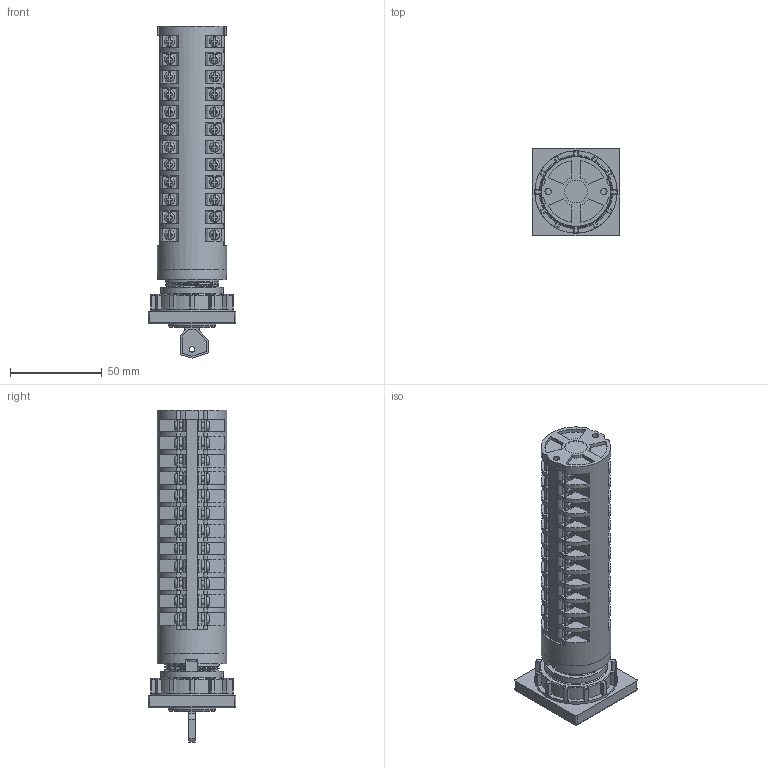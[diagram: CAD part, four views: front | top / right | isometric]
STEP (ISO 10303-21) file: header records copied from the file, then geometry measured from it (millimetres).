
FILE_DESCRIPTION(/* description */ (''),/* implementation_level */ '2;1');
FILE_NAME(/* name */ '4G10-U_wykonanie_S30_12_korpusow.stp',/* time_stamp */ '2021-07-21T09:13:49+02:00',/* author */ (''),/* organization */ (''),/* preprocessor_version */ 'ST-DEVELOPER v18.1',/* originating_system */ 'SIEMENS PLM Software NX 1965',/* authorisation */ '');
FILE_SCHEMA (('AUTOMOTIVE_DESIGN { 1 0 10303 214 3 1 1 1 }'));
Products named in the file (1): 4G10-U_wykonanie_S30_12_korpusow_stp
Bounding box: 48 x 48 x 181.42 mm (x, y, z)
Volume: 165293.7 mm3; surface area: 45895.3 mm2
Topology: 1 solids, 3 shells, 1853 faces, 5088 edges, 3330 vertices
Faces by surface type: plane 1433, cylinder 317, bspline 87, torus 16
Full cylindrical faces by diameter (mm): 3 x1, 3.2 x50, 3.3 x2, 3.4 x2, 12.3 x1, 15 x1, 26 x1, 34 x1, 38 x2, 45 x1
Entity records: 64912 total; most frequent: CARTESIAN_POINT 18878, ORIENTED_EDGE 9792, DIRECTION 9110, EDGE_CURVE 4896, VERTEX_POINT 3276, AXIS2_PLACEMENT_3D 3048, LINE 3014, VECTOR 3014
